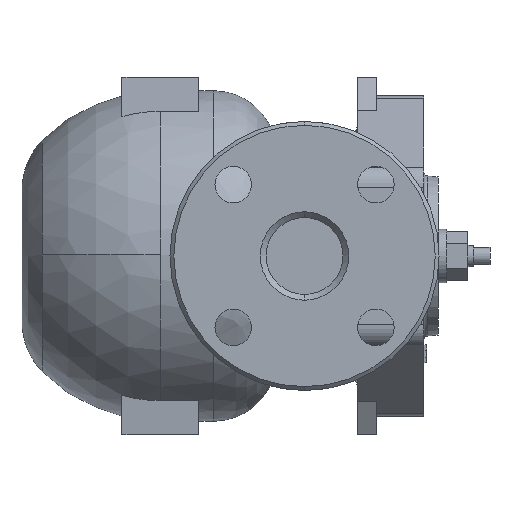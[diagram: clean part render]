
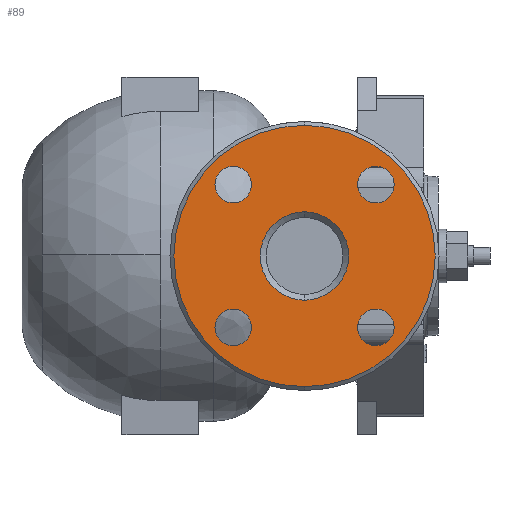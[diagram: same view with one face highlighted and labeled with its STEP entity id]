
A CAD part, left-side view. The second image highlights one B-rep face of the part: STEP entity #89.
In plain terms, the highlighted planar face has unit normal (-1, 0, 0).
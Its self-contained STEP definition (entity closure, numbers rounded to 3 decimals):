
#89=ADVANCED_FACE('',(#715,#716,#717,#718,#719,#720),#714,.T.);
#714=PLANE('',#2228);
#715=FACE_OUTER_BOUND('',#2229,.T.);
#716=FACE_BOUND('',#2230,.T.);
#717=FACE_BOUND('',#2231,.T.);
#718=FACE_BOUND('',#2232,.T.);
#719=FACE_BOUND('',#2233,.T.);
#720=FACE_BOUND('',#2234,.T.);
#2225=CARTESIAN_POINT('',(-140.,-127.779,-146.));
#2226=DIRECTION('',(-1.,0.,0.));
#2227=DIRECTION('',(0.,0.,1.));
#2228=AXIS2_PLACEMENT_3D('',#2225,#2226,#2227);
#2229=EDGE_LOOP('',(#3896,#3897));
#2230=EDGE_LOOP('',(#3898,#3899));
#2231=EDGE_LOOP('',(#3900,#3901));
#2232=EDGE_LOOP('',(#3902,#3903));
#2233=EDGE_LOOP('',(#3904,#3905));
#2234=EDGE_LOOP('',(#3906,#3907));
#3896=ORIENTED_EDGE('',*,*,#4697,.T.);
#3897=ORIENTED_EDGE('',*,*,#4698,.T.);
#3898=ORIENTED_EDGE('',*,*,#4699,.T.);
#3899=ORIENTED_EDGE('',*,*,#4700,.T.);
#3900=ORIENTED_EDGE('',*,*,#4701,.T.);
#3901=ORIENTED_EDGE('',*,*,#4702,.T.);
#3902=ORIENTED_EDGE('',*,*,#4703,.T.);
#3903=ORIENTED_EDGE('',*,*,#4704,.T.);
#3904=ORIENTED_EDGE('',*,*,#4705,.T.);
#3905=ORIENTED_EDGE('',*,*,#4706,.T.);
#3906=ORIENTED_EDGE('',*,*,#4707,.T.);
#3907=ORIENTED_EDGE('',*,*,#4708,.T.);
#4697=EDGE_CURVE('',#6197,#6198,#6199,.T.);
#4698=EDGE_CURVE('',#6198,#6197,#6205,.T.);
#4699=EDGE_CURVE('',#6211,#6212,#6213,.T.);
#4700=EDGE_CURVE('',#6212,#6211,#6219,.T.);
#4701=EDGE_CURVE('',#6225,#6226,#6227,.T.);
#4702=EDGE_CURVE('',#6226,#6225,#6233,.T.);
#4703=EDGE_CURVE('',#6239,#6240,#6241,.T.);
#4704=EDGE_CURVE('',#6240,#6239,#6247,.T.);
#4705=EDGE_CURVE('',#6253,#6254,#6255,.T.);
#4706=EDGE_CURVE('',#6254,#6253,#6261,.T.);
#4707=EDGE_CURVE('',#6267,#6268,#6269,.T.);
#4708=EDGE_CURVE('',#6268,#6267,#6275,.T.);
#6197=VERTEX_POINT('',#8693);
#6198=VERTEX_POINT('',#8694);
#6199=CIRCLE('',#8698,68.);
#6205=CIRCLE('',#8702,68.);
#6211=VERTEX_POINT('',#8703);
#6212=VERTEX_POINT('',#8704);
#6213=CIRCLE('',#8708,9.5);
#6219=CIRCLE('',#8712,9.5);
#6225=VERTEX_POINT('',#8713);
#6226=VERTEX_POINT('',#8714);
#6227=CIRCLE('',#8718,23.);
#6233=CIRCLE('',#8722,23.);
#6239=VERTEX_POINT('',#8723);
#6240=VERTEX_POINT('',#8724);
#6241=CIRCLE('',#8728,9.5);
#6247=CIRCLE('',#8732,9.5);
#6253=VERTEX_POINT('',#8733);
#6254=VERTEX_POINT('',#8734);
#6255=CIRCLE('',#8738,9.5);
#6261=CIRCLE('',#8742,9.5);
#6267=VERTEX_POINT('',#8743);
#6268=VERTEX_POINT('',#8744);
#6269=CIRCLE('',#8748,9.5);
#6275=CIRCLE('',#8752,9.5);
#8693=CARTESIAN_POINT('',(-140.,0.,68.));
#8694=CARTESIAN_POINT('',(-140.,0.,-68.));
#8695=CARTESIAN_POINT('',(-140.,0.,0.));
#8696=DIRECTION('',(-1.,0.,0.));
#8697=DIRECTION('',(0.,0.,1.));
#8698=AXIS2_PLACEMENT_3D('',#8695,#8696,#8697);
#8699=CARTESIAN_POINT('',(-140.,0.,0.));
#8700=DIRECTION('',(-1.,0.,0.));
#8701=DIRECTION('',(0.,0.,1.));
#8702=AXIS2_PLACEMENT_3D('',#8699,#8700,#8701);
#8703=CARTESIAN_POINT('',(-140.,37.123,46.623));
#8704=CARTESIAN_POINT('',(-140.,37.123,27.623));
#8705=CARTESIAN_POINT('',(-140.,37.123,37.123));
#8706=DIRECTION('',(1.,0.,0.));
#8707=DIRECTION('',(0.,0.,1.));
#8708=AXIS2_PLACEMENT_3D('',#8705,#8706,#8707);
#8709=CARTESIAN_POINT('',(-140.,37.123,37.123));
#8710=DIRECTION('',(1.,0.,0.));
#8711=DIRECTION('',(0.,0.,1.));
#8712=AXIS2_PLACEMENT_3D('',#8709,#8710,#8711);
#8713=CARTESIAN_POINT('',(-140.,0.,23.));
#8714=CARTESIAN_POINT('',(-140.,0.,-23.));
#8715=CARTESIAN_POINT('',(-140.,0.,0.));
#8716=DIRECTION('',(1.,0.,0.));
#8717=DIRECTION('',(0.,0.,1.));
#8718=AXIS2_PLACEMENT_3D('',#8715,#8716,#8717);
#8719=CARTESIAN_POINT('',(-140.,0.,0.));
#8720=DIRECTION('',(1.,0.,0.));
#8721=DIRECTION('',(0.,0.,1.));
#8722=AXIS2_PLACEMENT_3D('',#8719,#8720,#8721);
#8723=CARTESIAN_POINT('',(-140.,-37.123,-27.623));
#8724=CARTESIAN_POINT('',(-140.,-37.123,-46.623));
#8725=CARTESIAN_POINT('',(-140.,-37.123,-37.123));
#8726=DIRECTION('',(1.,0.,0.));
#8727=DIRECTION('',(0.,0.,1.));
#8728=AXIS2_PLACEMENT_3D('',#8725,#8726,#8727);
#8729=CARTESIAN_POINT('',(-140.,-37.123,-37.123));
#8730=DIRECTION('',(1.,0.,0.));
#8731=DIRECTION('',(0.,0.,1.));
#8732=AXIS2_PLACEMENT_3D('',#8729,#8730,#8731);
#8733=CARTESIAN_POINT('',(-140.,37.123,-27.623));
#8734=CARTESIAN_POINT('',(-140.,37.123,-46.623));
#8735=CARTESIAN_POINT('',(-140.,37.123,-37.123));
#8736=DIRECTION('',(1.,0.,0.));
#8737=DIRECTION('',(0.,0.,1.));
#8738=AXIS2_PLACEMENT_3D('',#8735,#8736,#8737);
#8739=CARTESIAN_POINT('',(-140.,37.123,-37.123));
#8740=DIRECTION('',(1.,0.,0.));
#8741=DIRECTION('',(0.,0.,1.));
#8742=AXIS2_PLACEMENT_3D('',#8739,#8740,#8741);
#8743=CARTESIAN_POINT('',(-140.,-37.123,46.623));
#8744=CARTESIAN_POINT('',(-140.,-37.123,27.623));
#8745=CARTESIAN_POINT('',(-140.,-37.123,37.123));
#8746=DIRECTION('',(1.,0.,0.));
#8747=DIRECTION('',(0.,0.,1.));
#8748=AXIS2_PLACEMENT_3D('',#8745,#8746,#8747);
#8749=CARTESIAN_POINT('',(-140.,-37.123,37.123));
#8750=DIRECTION('',(1.,0.,0.));
#8751=DIRECTION('',(0.,0.,1.));
#8752=AXIS2_PLACEMENT_3D('',#8749,#8750,#8751);
